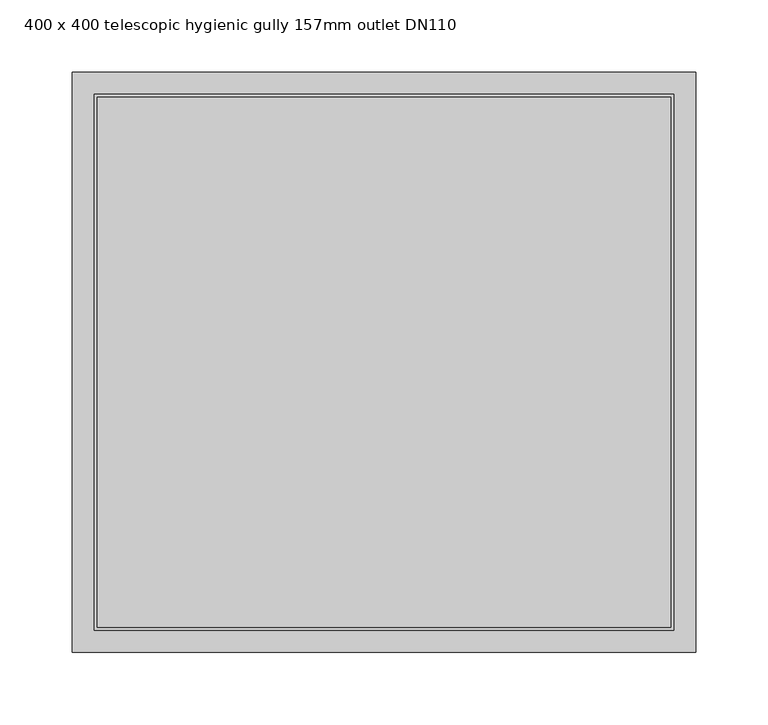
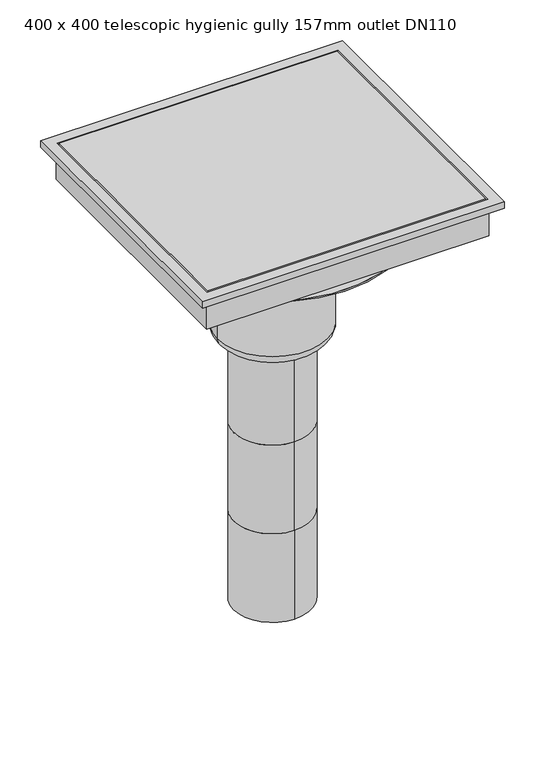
"""IFC4 building model written with IfcOpenShell, lengths in millimetres: sanitary terminal geometry, PF_ST_UN_Siphon telescopics eskis elongated hygiene first_ACO : 400 x 400 telescopic hygienic gully 157mm outlet DN110."""

from ifc_helpers import new_model, si_unit, point, frame, origin, origin_2d, place, context, project, spatial, polyline, circle_curve, ellipse_curve, trimmed, segment, composite_curve, outline, extrude, faceted_brep, source, transform, mapped, element, save
from ifc_brep_helpers import plane_surface, cylinder_surface, revolved_surface, advanced_brep


def sanitary_terminal_400_x_400_telescopic_hygienic_gully_157mm_b8d839c2(model_context):
    return source(origin(), model_context, "Body", "SolidModel", [
        extrude(outline(composite_curve([segment(trimmed(circle_curve(origin_2d(), 71.5), [point((-71.5, 0.0))], [point((71.5, 0.0))], False, "CARTESIAN"), True, "CONTINUOUS"), segment(trimmed(circle_curve(origin_2d(), 71.5), [point((71.5, 0.0))], [point((-71.5, 0.0))], False, "CARTESIAN"), True, "CONTINUOUS")], self_intersect=False)), frame((0.0, 0.0, -237.0), z_axis=(0.0, 0.0, 1.0), x_axis=(1.0, 0.0, 0.0)), (0.0, 0.0, 1.0), 62.0),
        faceted_brep([(215.0, 200.0, -130.0), (215.0, 200.0, -120.0), (215.0, -200.0, -120.0), (215.0, -200.0, -130.0), (201.0, 186.0, -175.0), (201.0, 186.0, -130.0), (201.0, -186.0, -130.0), (201.0, -186.0, -175.0), (200.0, -185.0, -120.0), (200.0, 185.0, -120.0), (200.0, 185.0, -165.0), (200.0, -185.0, -165.0), (-215.0, -200.0, -120.0), (-215.0, -200.0, -130.0), (-201.0, -186.0, -130.0), (-201.0, -186.0, -175.0), (-200.0, -185.0, -120.0), (-200.0, -185.0, -165.0), (-215.0, 200.0, -120.0), (-215.0, 200.0, -130.0), (-201.0, 186.0, -130.0), (-201.0, 186.0, -175.0), (-200.0, 185.0, -120.0), (-200.0, 185.0, -165.0)], [[[0, 1, 2, 3]], [[4, 5, 6, 7]], [[8, 9, 10, 11]], [[3, 2, 12, 13]], [[7, 6, 14, 15]], [[16, 8, 11, 17]], [[13, 12, 18, 19]], [[15, 14, 20, 21]], [[22, 16, 17, 23]], [[2, 1, 18, 12], [9, 8, 16, 22]], [[1, 0, 19, 18]], [[0, 3, 13, 19], [6, 5, 20, 14]], [[5, 4, 21, 20]], [[4, 7, 15, 21]], [[9, 22, 23, 10]], [[11, 10, 23, 17]]]),
        extrude(outline(polyline([(198.0, 183.0), (198.0, -183.0), (-198.0, -183.0), (-198.0, 183.0), (198.0, 183.0)])), frame((0.0, 0.0, -165.0), z_axis=(0.0, 0.0, 1.0), x_axis=(1.0, 0.0, 0.0)), (0.0, 0.0, 1.0), 45.0),
        advanced_brep(
        [(0.0, -55.0, -761.0), (0.0, 55.0, -761.0), (0.0, -55.0, -627.6666667), (0.0, 55.0, -627.6666667), (0.0, -55.0, -494.3333333), (0.0, 55.0, -494.3333333), (0.0, 55.0, -361.0), (55.0, 0.0, -361.0), (0.0, -55.0, -361.0), (-55.0, 0.0, -361.0), (78.5, 0.0, -344.5), (-78.5, 0.0, -344.5), (-78.5, 0.0, -192.0), (78.5, 0.0, -192.0), (62.0, 0.0, -361.0), (-62.0, 0.0, -361.0), (-179.0, 0.0, -192.0), (179.0, 0.0, -192.0), (-179.0, 0.0, -190.0), (179.0, 0.0, -190.0)],
        [
            (0, 1, circle_curve(frame((0.0, 0.0, -761.0), z_axis=(0.0, 0.0, -1.0), x_axis=(0.0, 1.0, 0.0)), 55.0)),
            (1, 0, circle_curve(frame((0.0, 0.0, -761.0), z_axis=(0.0, 0.0, -1.0), x_axis=(0.0, 1.0, 0.0)), 55.0)),
            (0, 2),
            (2, 3, circle_curve(frame((0.0, 0.0, -627.6666667), z_axis=(0.0, 0.0, -1.0), x_axis=(0.0, 1.0, 0.0)), 55.0)),
            (3, 1),
            (3, 2, circle_curve(frame((0.0, 0.0, -627.6666667), z_axis=(0.0, 0.0, -1.0), x_axis=(0.0, 1.0, 0.0)), 55.0)),
            (4, 2),
            (3, 5),
            (5, 4, circle_curve(frame((0.0, 0.0, -494.3333333), z_axis=(0.0, 0.0, -1.0), x_axis=(1.0, 0.0, 0.0)), 55.0)),
            (4, 5, circle_curve(frame((0.0, 0.0, -494.3333333), z_axis=(0.0, 0.0, -1.0), x_axis=(-1.0, 0.0, 0.0)), 55.0)),
            (5, 6),
            (6, 7, circle_curve(frame((0.0, 0.0, -361.0), z_axis=(0.0, 0.0, -1.0), x_axis=(0.0, 1.0, 0.0)), 55.0)),
            (7, 8, circle_curve(frame((0.0, 0.0, -361.0), z_axis=(0.0, 0.0, -1.0), x_axis=(0.0, 1.0, 0.0)), 55.0)),
            (8, 4),
            (8, 9, circle_curve(frame((0.0, 0.0, -361.0), z_axis=(0.0, 0.0, -1.0), x_axis=(0.0, 1.0, 0.0)), 55.0)),
            (9, 6, circle_curve(frame((0.0, 0.0, -361.0), z_axis=(0.0, 0.0, -1.0), x_axis=(0.0, 1.0, 0.0)), 55.0)),
            (10, 11, circle_curve(frame((0.0, 0.0, -344.5), z_axis=(0.0, 0.0, 1.0), x_axis=(-1.0, 0.0, 0.0)), 78.5)),
            (11, 12),
            (12, 13, circle_curve(frame((0.0, 0.0, -192.0), z_axis=(0.0, 0.0, -1.0), x_axis=(-1.0, 0.0, 0.0)), 78.5)),
            (13, 10),
            (11, 10, circle_curve(frame((0.0, 0.0, -344.5), z_axis=(0.0, 0.0, 1.0), x_axis=(-1.0, 0.0, 0.0)), 78.5)),
            (13, 12, circle_curve(frame((0.0, 0.0, -192.0), z_axis=(0.0, 0.0, -1.0), x_axis=(-1.0, 0.0, 0.0)), 78.5)),
            (10, 14, circle_curve(frame((62.0, 0.0, -344.5), z_axis=(0.0, 1.0, 0.0), x_axis=(-1.0, 0.0, 0.0)), 16.5)),
            (14, 15, circle_curve(frame((0.0, 0.0, -361.0), z_axis=(0.0, 0.0, 1.0), x_axis=(-1.0, 0.0, 0.0)), 62.0)),
            (15, 11, circle_curve(frame((-62.0, 0.0, -344.5), z_axis=(0.0, 1.0, 0.0), x_axis=(1.0, 0.0, 0.0)), 16.5)),
            (15, 14, circle_curve(frame((0.0, 0.0, -361.0), z_axis=(0.0, 0.0, 1.0), x_axis=(-1.0, 0.0, 0.0)), 62.0)),
            (14, 7),
            (9, 15),
            (16, 17, circle_curve(frame((0.0, 0.0, -192.0), z_axis=(0.0, 0.0, -1.0), x_axis=(1.0, 0.0, 0.0)), 179.0)),
            (17, 16, circle_curve(frame((0.0, 0.0, -192.0), z_axis=(0.0, 0.0, -1.0), x_axis=(1.0, 0.0, 0.0)), 179.0)),
            (18, 19, circle_curve(frame((0.0, 0.0, -190.0), z_axis=(0.0, 0.0, 1.0), x_axis=(1.0, 0.0, 0.0)), 179.0)),
            (19, 18, circle_curve(frame((0.0, 0.0, -190.0), z_axis=(0.0, 0.0, 1.0), x_axis=(1.0, 0.0, 0.0)), 179.0)),
            (17, 19),
            (18, 16),
        ],
        [
            plane_surface(frame((0.0, 55.0, -761.0), z_axis=(0.0, 0.0, -1.0), x_axis=(1.0, 0.0, 0.0))),
            cylinder_surface(frame((0.0, 0.0, -627.6666667), z_axis=(0.0, 0.0, -1.0), x_axis=(0.0, 1.0, 0.0)), 55.0),
            cylinder_surface(frame((0.0, 0.0, -494.3333333), z_axis=(0.0, 0.0, -1.0), x_axis=(1.0, 0.0, 0.0)), 55.0),
            cylinder_surface(frame((0.0, 0.0, -494.3333333), z_axis=(0.0, 0.0, -1.0), x_axis=(-1.0, 0.0, 0.0)), 55.0),
            cylinder_surface(frame((0.0, 0.0, -361.0), z_axis=(0.0, 0.0, -1.0), x_axis=(0.0, 1.0, 0.0)), 55.0),
            cylinder_surface(frame((0.0, 0.0, -130.0), z_axis=(0.0, 0.0, -1.0), x_axis=(-1.0, 0.0, 0.0)), 78.5),
            revolved_surface(trimmed(ellipse_curve(frame((-62.0, 0.0, -344.5), z_axis=(0.0, -1.0, 0.0), x_axis=(1.0, 0.0, 0.0)), 16.5, 16.5), [point((-78.5, 0.0, -344.5))], [point((-62.0, 0.0, -361.0))], True, "CARTESIAN"), (0.0, 0.0, -130.0), (0.0, 0.0, -1.0)),
            plane_surface(frame((0.0, 0.0, -361.0), z_axis=(0.0, 0.0, -1.0), x_axis=(-1.0, 0.0, 0.0))),
            plane_surface(frame((179.0, 0.0, -192.0), z_axis=(0.0, 0.0, -1.0), x_axis=(0.0, -1.0, 0.0))),
            plane_surface(frame((179.0, 0.0, -190.0), z_axis=(0.0, 0.0, 1.0), x_axis=(0.0, 1.0, 0.0))),
            cylinder_surface(frame((0.0, 0.0, -192.0), z_axis=(0.0, 0.0, 1.0), x_axis=(1.0, 0.0, 0.0)), 179.0),
        ],
        [
            (0, [[1, 2]]),
            (1, [[-1, 3, 4, 5]]),
            (1, [[-2, -5, 6, -3]]),
            (2, [[7, -6, 8, 9]]),
            (3, [[-7, 10, -8, -4]]),
            (4, [[11, 12, 13, 14, -9]]),
            (4, [[-11, -10, -14, 15, 16]]),
            (5, [[17, 18, 19, 20]]),
            (5, [[-18, 21, -20, 22]]),
            (6, [[-17, 23, 24, 25]]),
            (6, [[-21, -25, 26, -23]]),
            (7, [[-24, 27, -12, -16, 28]]),
            (7, [[-26, -28, -15, -13, -27]]),
            (8, [[29, 30], [-19, -22]]),
            (9, [[31, 32]]),
            (10, [[-30, 33, -31, 34]]),
            (10, [[-29, -34, -32, -33]]),
        ],
    ),
    ])


if __name__ == "__main__":
    model = new_model("IFC4")
    model_context = context("Model", 3, world=origin())
    ifc_project = project(units=[si_unit("LENGTHUNIT", "METRE", prefix="MILLI")], contexts=[model_context])
    site = spatial("IfcSite", under=ifc_project)
    building = spatial("IfcBuilding", under=site)
    placement = place(None, origin())
    sanitary_terminal_400_x_400_telescopic_hygienic_gully_157mm_shape = sanitary_terminal_400_x_400_telescopic_hygienic_gully_157mm_b8d839c2(model_context)
    element("IfcSanitaryTerminal", 1, ObjectType="PF_ST_UN_Siphon telescopics eskis elongated hygiene first_ACO : 400 x 400 telescopic hygienic gully 157mm outlet DN110", at=placement, inside=building, context=model_context, shape_type="MappedRepresentation", body=[
        mapped(sanitary_terminal_400_x_400_telescopic_hygienic_gully_157mm_shape, transform((0.0, 0.0, 0.0), x_axis=(1.0, 0.0, 0.0), y_axis=(0.0, 1.0, 0.0), z_axis=(0.0, 0.0, 1.0))),
    ])
    save(model, "model.ifc")
